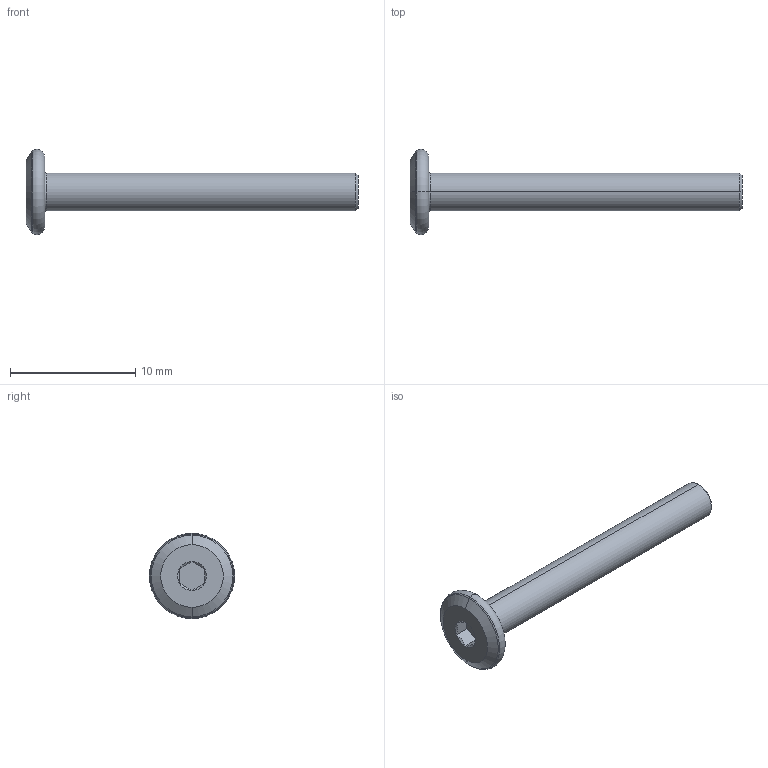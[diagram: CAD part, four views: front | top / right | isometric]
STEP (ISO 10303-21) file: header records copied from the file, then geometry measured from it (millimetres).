
FILE_DESCRIPTION (( 'STEP AP203' ), '1' );
FILE_NAME ('LGD-304D-M3x25.STEP', '2026-08-13T04:13:44', ( '' ), ( '' ), 'SwSTEP 2.0', 'SolidWorks 2020', '' );
FILE_SCHEMA (( 'CONFIG_CONTROL_DESIGN' ));
Length unit declared in the file: millimetre
Products named in the file (1): LGD-304D-M3x25
Bounding box: 26.5 x 6.8 x 6.8 mm (x, y, z)
Volume: 219.9 mm3; surface area: 330.6 mm2
Topology: 1 solids, 1 shells, 28 faces, 52 edges, 28 vertices
Faces by surface type: cone 10, plane 10, torus 6, cylinder 2
Entity records: 779 total; most frequent: CARTESIAN_POINT 139, DIRECTION 132, ORIENTED_EDGE 104, AXIS2_PLACEMENT_3D 57, EDGE_CURVE 52, EDGE_LOOP 30, CIRCLE 28, ADVANCED_FACE 28
